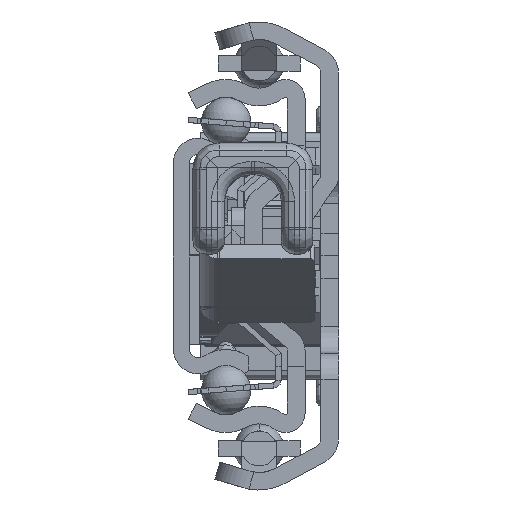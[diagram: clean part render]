
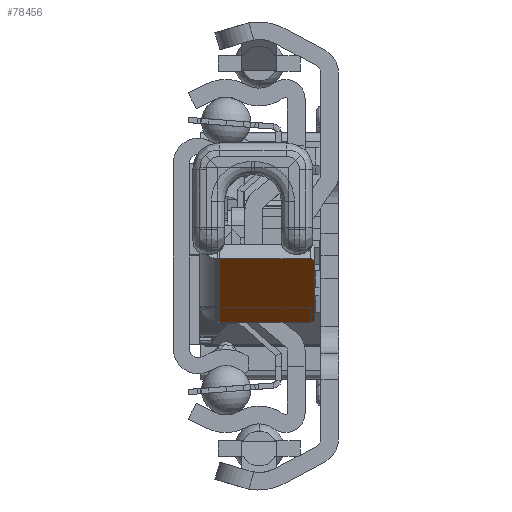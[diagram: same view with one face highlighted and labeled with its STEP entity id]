
A CAD part, left-side view. The second image highlights one B-rep face of the part: STEP entity #78456.
In plain terms, the highlighted planar face has unit normal (-0.597, 0, -0.802) as drawn and (-0.597, -0.802, 0) by its records, which use the part's own axes.
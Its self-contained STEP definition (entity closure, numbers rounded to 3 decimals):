
#77848=DIRECTION('',(0.802,-0.597,0.));
#77849=VECTOR('',#77848,12.);
#77850=CARTESIAN_POINT('',(31.957,-10.314,2.2));
#77851=LINE('',#77850,#77849);
#77876=CARTESIAN_POINT('',(41.184,-17.178,12.5));
#77877=DIRECTION('',(-0.597,-0.802,0.));
#77878=DIRECTION('',(0.802,-0.597,0.));
#77879=AXIS2_PLACEMENT_3D('',#77876,#77877,#77878);
#77881=DIRECTION('',(0.,0.,1.));
#77882=VECTOR('',#77881,10.3);
#77883=CARTESIAN_POINT('',(41.586,-17.476,2.2));
#77884=LINE('',#77883,#77882);
#77885=DIRECTION('',(0.,0.,-1.));
#77886=VECTOR('',#77885,10.3);
#77887=CARTESIAN_POINT('',(31.957,-10.314,12.5));
#77888=LINE('',#77887,#77886);
#77889=CARTESIAN_POINT('',(32.358,-10.613,12.5));
#77890=DIRECTION('',(-0.597,-0.802,0.));
#77891=DIRECTION('',(0.,0.,1.));
#77892=AXIS2_PLACEMENT_3D('',#77889,#77890,#77891);
#77894=DIRECTION('',(-0.802,0.597,0.));
#77895=VECTOR('',#77894,11.);
#77896=CARTESIAN_POINT('',(41.184,-17.178,13.));
#77897=LINE('',#77896,#77895);
#78110=CARTESIAN_POINT('',(31.957,-10.314,2.2));
#78111=CARTESIAN_POINT('',(41.586,-17.476,2.2));
#78112=VERTEX_POINT('',#78110);
#78113=VERTEX_POINT('',#78111);
#78142=CARTESIAN_POINT('',(41.586,-17.476,12.5));
#78143=CARTESIAN_POINT('',(41.184,-17.178,13.));
#78144=VERTEX_POINT('',#78142);
#78145=VERTEX_POINT('',#78143);
#78150=CARTESIAN_POINT('',(32.358,-10.613,13.));
#78151=CARTESIAN_POINT('',(31.957,-10.314,12.5));
#78152=VERTEX_POINT('',#78150);
#78153=VERTEX_POINT('',#78151);
#78438=CARTESIAN_POINT('',(34.726,-12.374,0.));
#78439=DIRECTION('',(-0.597,-0.802,0.));
#78440=DIRECTION('',(0.802,-0.597,0.));
#78441=AXIS2_PLACEMENT_3D('',#78438,#78439,#78440);
#78442=PLANE('',#78441);
#78444=ORIENTED_EDGE('',*,*,#78443,.F.);
#78446=ORIENTED_EDGE('',*,*,#78445,.F.);
#78447=ORIENTED_EDGE('',*,*,#78425,.F.);
#78449=ORIENTED_EDGE('',*,*,#78448,.F.);
#78451=ORIENTED_EDGE('',*,*,#78450,.F.);
#78453=ORIENTED_EDGE('',*,*,#78452,.F.);
#78454=EDGE_LOOP('',(#78444,#78446,#78447,#78449,#78451,#78453));
#78455=FACE_OUTER_BOUND('',#78454,.F.);
#77880=CIRCLE('',#77879,0.5);
#77893=CIRCLE('',#77892,0.5);
#78425=EDGE_CURVE('',#78112,#78113,#77851,.T.);
#78443=EDGE_CURVE('',#78144,#78145,#77880,.T.);
#78445=EDGE_CURVE('',#78113,#78144,#77884,.T.);
#78448=EDGE_CURVE('',#78153,#78112,#77888,.T.);
#78450=EDGE_CURVE('',#78152,#78153,#77893,.T.);
#78452=EDGE_CURVE('',#78145,#78152,#77897,.T.);
#78456=ADVANCED_FACE('',(#78455),#78442,.T.);
